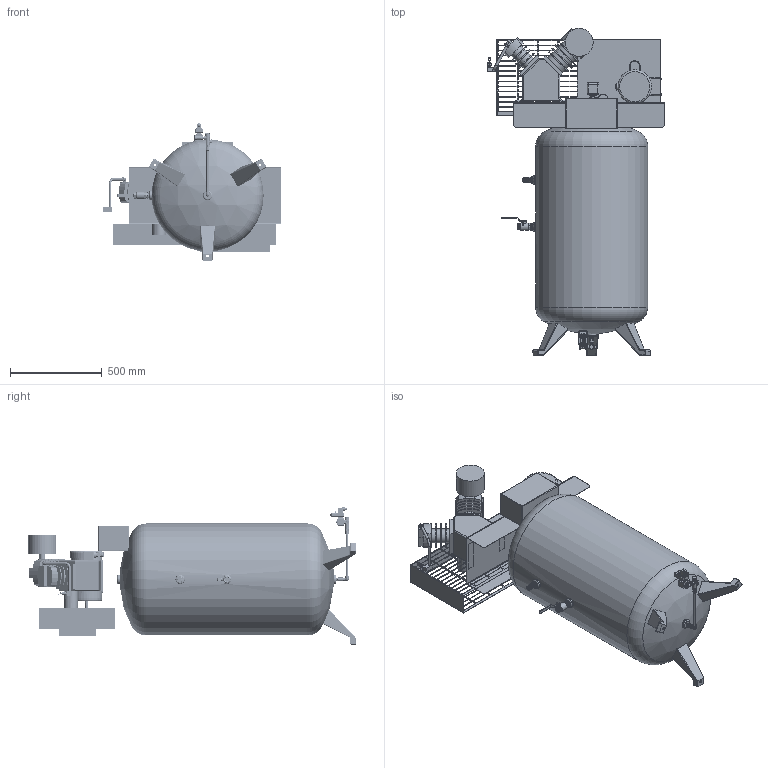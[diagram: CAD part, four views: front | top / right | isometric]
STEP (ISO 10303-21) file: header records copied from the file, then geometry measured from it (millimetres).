
FILE_DESCRIPTION(/* description */ (''),/* implementation_level */ '2;1');
FILE_NAME(/* name */ 'C:\Vault Local\Designs\CAD\Manufacturing\Manufacturing Components\Compressors\TCMP Standalone Air Compressors\TCMP-50\Export\TCMP-50.stp',/* time_stamp */ '2020-12-02T11:25:47-06:00',/* author */ ('myoung'),/* organization */ ('Engineered Corrosion Solutions'),/* preprocessor_version */ 'ST-DEVELOPER v18.1',/* originating_system */ 'Autodesk Inventor 2020',/* authorisation */ '');
FILE_SCHEMA (('CONFIG_CONTROL_DESIGN'));
Length unit declared in the file: inch
Products named in the file (1): TCMP-50
Bounding box: 967.74 x 1780.54 x 746.69 mm (x, y, z)
Volume: 345743802.4 mm3; surface area: 6117348.1 mm2
Topology: 2 solids, 23 shells, 2720 faces, 7815 edges, 5104 vertices
Faces by surface type: plane 1185, cylinder 709, cone 372, bspline 256, torus 126, sphere 72
Full cylindrical faces by diameter (mm): 4.75 x1, 5.08 x1, 5.5 x2, 6.35 x5, 6.5 x1, 6.936 x2, 9.246 x3, 9.5 x1, 10 x1, 10.039 x1, 10.16 x2, 10.312 x1, 12.065 x1, 12.7 x13, 12.878 x2, 13 x1, 13.716 x9, 14.224 x3, 14.5 x1, 14.916 x1, 14.922 x1, 15.127 x1, 15.17 x1, 15.24 x1, 15.538 x1, 15.799 x1, 15.813 x7, 15.875 x1, 16.143 x1, 17 x1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
Entity records: 287676 total; most frequent: CARTESIAN_POINT 218785, ORIENTED_EDGE 15172, DIRECTION 13051, EDGE_CURVE 7750, VERTEX_POINT 5104, AXIS2_PLACEMENT_3D 4709, LINE 3633, VECTOR 3633
